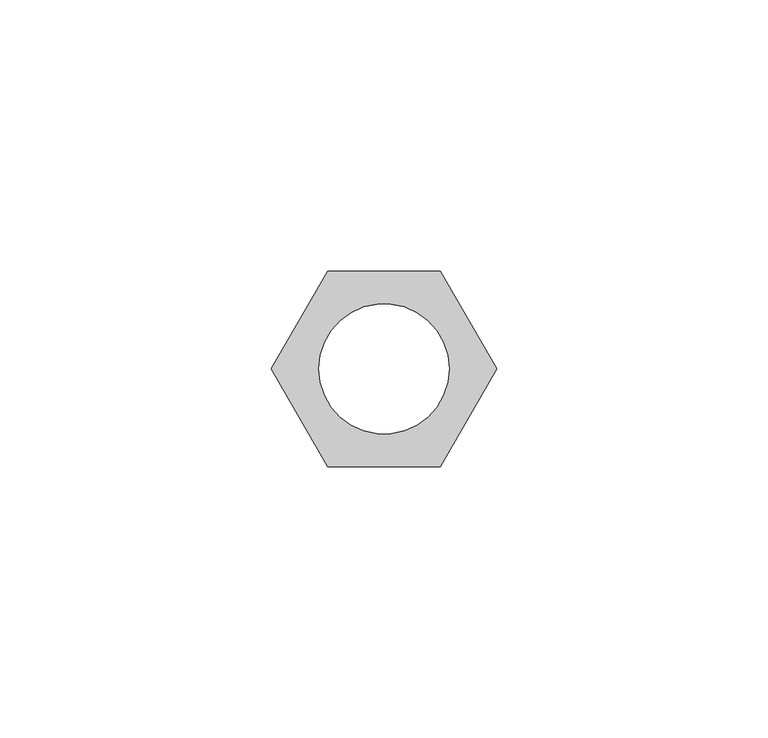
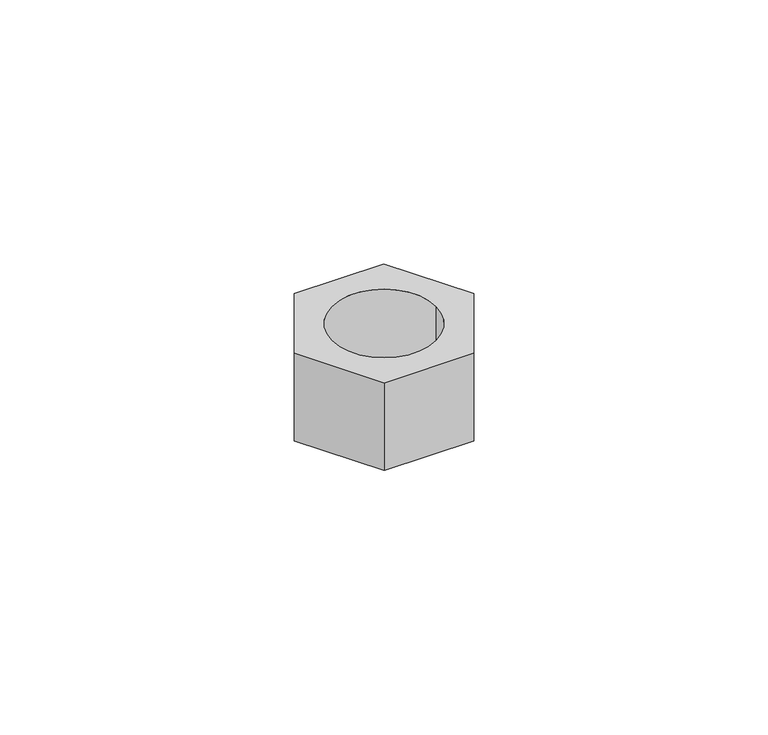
"""IFC4 building model written with IfcOpenShell, lengths in millimetres: fastener geometry, REC_TCA_M24 8.8 : REC_TCA_M24 8.8."""

from ifc_helpers import new_model, si_unit, point, origin, origin_with_axes, origin_2d, place, context, project, spatial, polyline, circle_curve, trimmed, segment, composite_curve, outline, extrude, source, transform, mapped, element, save


def fastener_6d48f5d1(model_context):
    return source(origin(), model_context, "Body", "SweptSolid", [
        extrude(outline(polyline([(-20.7846097, 0.0), (-10.3923048, 18.0), (10.3923048, 18.0), (20.7846097, 0.0), (10.3923048, -18.0), (-10.3923048, -18.0), (-20.7846097, 0.0)]), holes=[composite_curve([segment(trimmed(circle_curve(origin_2d(), 12.0), [point((-12.0, 0.0))], [point((12.0, 0.0))], True, "CARTESIAN"), True, "CONTINUOUS"), segment(trimmed(circle_curve(origin_2d(), 12.0), [point((12.0, 0.0))], [point((-12.0, 0.0))], True, "CARTESIAN"), True, "CONTINUOUS")], self_intersect=False)]), origin_with_axes(), (0.0, 0.0, 1.0), 21.5),
    ])


if __name__ == "__main__":
    model = new_model("IFC4")
    model_context = context("Model", 3, world=origin())
    ifc_project = project(units=[si_unit("LENGTHUNIT", "METRE", prefix="MILLI")], contexts=[model_context])
    site = spatial("IfcSite", under=ifc_project)
    building = spatial("IfcBuilding", under=site)
    placement = place(None, origin())
    fastener_shape = fastener_6d48f5d1(model_context)
    element("IfcFastener", 1, ObjectType="REC_TCA_M24 8.8 : REC_TCA_M24 8.8", at=placement, inside=building, context=model_context, shape_type="MappedRepresentation", body=[
        mapped(fastener_shape, transform((0.0, 0.0, 0.0), x_axis=(1.0, 0.0, 0.0), y_axis=(0.0, 1.0, 0.0), z_axis=(0.0, 0.0, 1.0))),
    ])
    save(model, "model.ifc")
